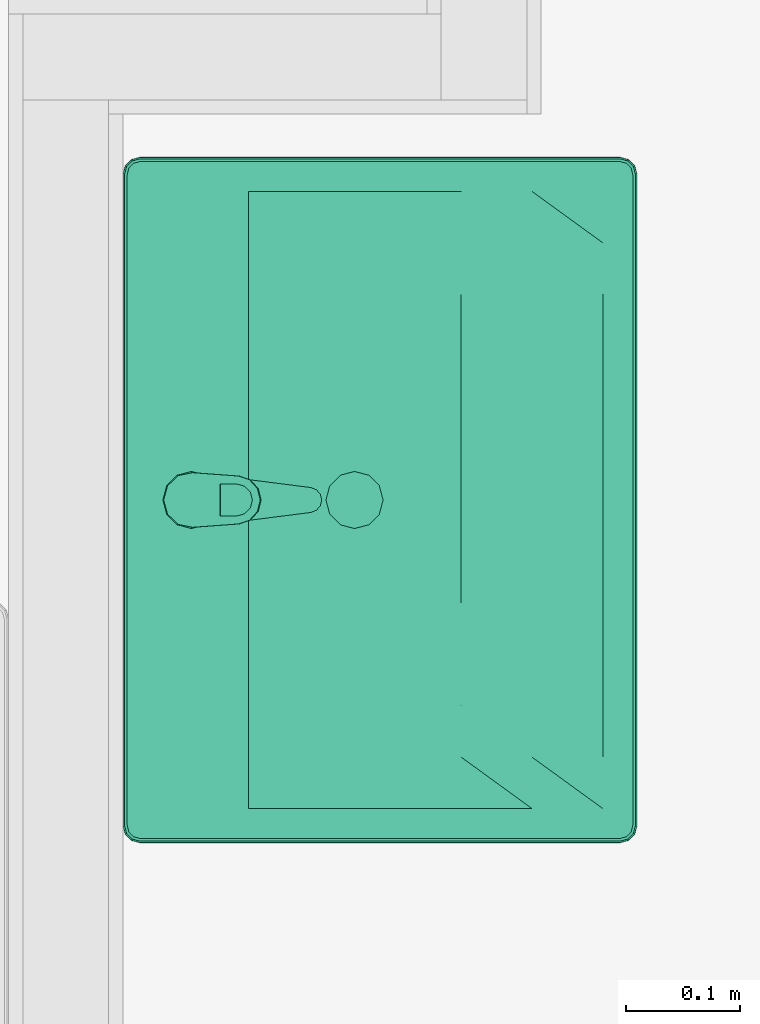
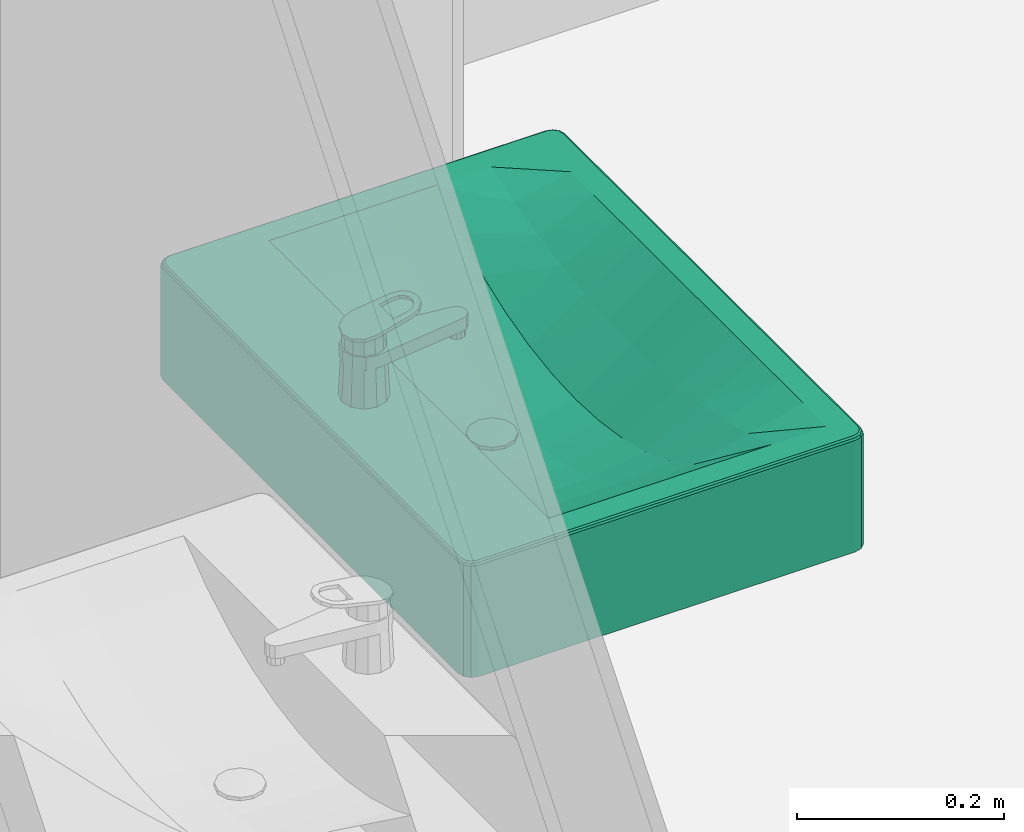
# One storey, part 117 of 135: 1 flow controller.
"""IFC2X3 building model written with IfcOpenShell, lengths in millimetres."""

from ifc_helpers import new_model, entity, si_unit, converted_unit, derived_unit, money_unit, direction, frame, origin_with_axes, place, context, subcontext, project, spatial, open_shell, faceted_brep, surface_model, source, transform, mapped, type_object, type_shapes, element, save


model = new_model("IFC2X3")

# Units and contexts
model_context = context("Model", 3, precision=0.01, world=origin_with_axes(), true_north=direction((0.0, 1.0)))
body_context = subcontext(model_context, "Body", "Model", "MODEL_VIEW")
ifc_project = project(units=[si_unit("LENGTHUNIT", "METRE", prefix="MILLI"), si_unit("AREAUNIT", "SQUARE_METRE"), si_unit("VOLUMEUNIT", "CUBIC_METRE"), converted_unit("PLANEANGLEUNIT", "DEGREE", entity("IfcPlaneAngleMeasure", 0.0174532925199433), si_unit("PLANEANGLEUNIT", "RADIAN"), dimensions=[0, 0, 0, 0, 0, 0, 0]), money_unit("EUR"), converted_unit("TIMEUNIT", "Year", entity("IfcTimeMeasure", 31557600.0), si_unit("TIMEUNIT", "SECOND"), dimensions=[0, 0, 1, 0, 0, 0, 0]), si_unit("MASSUNIT", "GRAM", prefix="KILO"), si_unit("THERMODYNAMICTEMPERATUREUNIT", "DEGREE_CELSIUS"), si_unit("LUMINOUSINTENSITYUNIT", "LUMEN"), si_unit("ENERGYUNIT", "JOULE", prefix="MEGA"), derived_unit("THERMALCONDUCTANCEUNIT", [(si_unit("POWERUNIT", "WATT"), 1), (si_unit("LENGTHUNIT", "METRE"), -1), (si_unit("THERMODYNAMICTEMPERATUREUNIT", "KELVIN"), -1)]), derived_unit("SPECIFICHEATCAPACITYUNIT", [(si_unit("ENERGYUNIT", "JOULE"), 1), (si_unit("MASSUNIT", "GRAM", prefix="KILO"), -1), (si_unit("THERMODYNAMICTEMPERATUREUNIT", "KELVIN"), -1)]), derived_unit("MASSDENSITYUNIT", [(si_unit("MASSUNIT", "GRAM", prefix="KILO"), 1), (si_unit("VOLUMEUNIT", "CUBIC_METRE"), -1)])], contexts=[model_context])

# Site, building, storey
site_placement = place(None, origin_with_axes())
site = spatial("IfcSite", under=ifc_project, at=site_placement, Name="Site", CompositionType="ELEMENT")
building_placement = place(site_placement, origin_with_axes())
building = spatial("IfcBuilding", under=site, at=building_placement, Name="Naam gebouw", CompositionType="ELEMENT")
storey_placement = place(building_placement, origin_with_axes())
storey = spatial("IfcBuildingStorey", under=building, at=storey_placement, Name="Begane grond N", CompositionType="ELEMENT", Elevation=0.0)

# Flow controller
valve_type = type_object("IfcValveType", Name="Wasbak 27", PredefinedType="NOTDEFINED")
shared_shape = source(origin_with_axes(), body_context, "Body", "SurfaceModel", [
    faceted_brep([(285.0, -450.0, 865.0), (-285.0, -450.0, 865.0), (-292.5, -447.9903810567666, 865.0), (-297.9903810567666, -442.5, 865.0), (-300.0, -435.0, 865.0), (-300.0, -15.00000000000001, 865.0), (-297.9903810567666, -7.500000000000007, 865.0), (-292.5, -2.009618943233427, 865.0), (-285.0, 0.0, 865.0), (285.0, 0.0, 865.0), (292.5, -2.009618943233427, 865.0), (297.9903810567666, -7.500000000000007, 865.0), (300.0, -15.00000000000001, 865.0), (300.0, -435.0, 865.0), (297.9903810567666, -442.5, 865.0), (292.5, -447.9903810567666, 865.0), (-270.0, -420.0000000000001, 865.0), (270.0, -420.0000000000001, 865.0), (270.0, -110.0, 865.0), (-270.0, -110.0, 865.0), (284.9999995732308, -450.0000003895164, 995.0), (-284.9999997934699, -450.0000003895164, 995.0), (-292.5000000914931, -447.9903813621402, 995.0), (-297.9903813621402, -442.5000000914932, 995.0), (-300.0000003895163, -434.99999979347, 995.0), (-300.0000003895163, -14.99999986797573, 995.0), (-297.9903813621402, -7.499999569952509, 995.0), (-292.5000000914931, -2.009619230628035, 995.0), (-284.9999997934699, -2.032518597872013e-07, 995.0), (284.9999995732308, -2.032518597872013e-07, 995.0), (292.499999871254, -2.009619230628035, 995.0), (297.990381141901, -7.499999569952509, 995.0), (300.0000001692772, -14.99999986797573, 995.0), (300.0000001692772, -434.99999979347, 995.0), (297.990381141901, -442.5000000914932, 995.0), (292.499999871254, -447.9903813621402, 995.0), (-270.0, -420.0000000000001, 999.9999996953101), (270.0, -420.0000000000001, 999.9999996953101), (270.0, -110.0, 999.9999996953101), (-270.0, -110.0, 999.9999996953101), (284.9775698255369, -449.8296295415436, 996.2940952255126), (-284.9775700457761, -449.8296295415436, 996.2940952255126), (-292.4118096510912, -447.8376310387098, 996.2940952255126), (-297.8376310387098, -442.4118096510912, 996.2940952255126), (-299.8296295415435, -434.9775700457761, 996.2940952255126), (-299.8296295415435, -15.02242961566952, 996.2940952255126), (-297.8376310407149, -7.588190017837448, 996.2940952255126), (-292.4118096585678, -2.16236955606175, 996.2940952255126), (-284.9775700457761, -0.1703710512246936, 996.2940952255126), (284.9775698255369, -0.1703710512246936, 996.2940952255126), (292.4118094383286, -2.16236955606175, 996.2940952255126), (297.8376308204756, -7.588190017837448, 996.2940952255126), (299.8296293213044, -15.02242961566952, 996.2940952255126), (299.8296293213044, -434.9775700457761, 996.2940952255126), (297.8376308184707, -442.4118096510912, 996.2940952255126), (292.411809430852, -447.8376310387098, 996.2940952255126), (-284.3417376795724, -4.999997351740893, 999.9999996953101), (-289.911811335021, -6.492494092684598, 999.9999996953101), (-293.5075066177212, -10.08818876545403, 999.9999996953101), (-295.0000032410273, -15.6582619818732, 999.9999996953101), (-295.0000032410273, -434.3417376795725, 999.9999996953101), (-293.5075065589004, -439.9118111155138, 999.9999996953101), (-289.9118111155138, -443.5075065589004, 999.9999996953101), (-284.3417376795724, -445.0000032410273, 999.9999996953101), (284.3417374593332, -445.0000032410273, 999.9999996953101), (289.9118108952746, -443.5075065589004, 999.9999996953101), (293.5075063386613, -439.9118111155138, 999.9999996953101), (295.0000030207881, -434.3417376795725, 999.9999996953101), (295.0000030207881, -15.6582619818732, 999.9999996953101), (293.507506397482, -10.08818876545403, 999.9999996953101), (289.9118111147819, -6.492494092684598, 999.9999996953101), (284.3417374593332, -4.999997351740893, 999.9999996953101), (284.8071989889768, -448.5355345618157, 998.5355339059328), (-284.8071992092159, -448.5355345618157, 998.5355339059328), (-291.7419367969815, -446.6773772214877, 998.5355339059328), (-296.6773772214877, -441.7419367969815, 998.5355339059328), (-298.5355345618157, -434.807199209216, 998.5355339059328), (-298.5355345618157, -15.1928004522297, 998.5355339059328), (-296.6773772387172, -8.258062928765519, 998.5355339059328), (-291.7419368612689, -3.322623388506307, 998.5355339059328), (-284.8071992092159, -1.464466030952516, 998.5355339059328), (284.8071989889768, -1.464466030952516, 998.5355339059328), (291.7419366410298, -3.322623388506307, 998.5355339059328), (296.677377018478, -8.258062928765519, 998.5355339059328), (298.5355343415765, -15.1928004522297, 998.5355339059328), (298.5355343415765, -434.807199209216, 998.5355339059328), (296.6773770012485, -441.7419367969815, 998.5355339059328), (291.7419365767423, -446.6773772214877, 998.5355339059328), (-290.5816830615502, -5.332242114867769, 999.8296291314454), (-284.5121082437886, -3.705904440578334, 999.8296291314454), (-294.6677585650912, -9.418316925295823, 999.8296291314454), (-296.2940961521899, -15.487891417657, 999.8296291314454), (-296.2940961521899, -434.5121082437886, 999.8296291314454), (-294.6677585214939, -440.5816828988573, 999.8296291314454), (-290.5816828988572, -444.6677585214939, 999.8296291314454), (-284.5121082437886, -446.2940961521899, 999.8296291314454), (284.5121080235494, -446.2940961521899, 999.8296291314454), (290.5816826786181, -444.6677585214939, 999.8296291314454), (294.6677583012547, -440.5816828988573, 999.8296291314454), (296.2940959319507, -434.5121082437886, 999.8296291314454), (296.2940959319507, -15.487891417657, 999.8296291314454), (294.667758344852, -9.418316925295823, 999.8296291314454), (290.581682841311, -5.332242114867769, 999.8296291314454), (284.5121080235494, -3.705904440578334, 999.8296291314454)], [[[0, 1, 2, 3, 4, 5, 6, 7, 8, 9, 10, 11, 12, 13, 14, 15], [16, 17, 18, 19]], [[0, 20, 21, 1]], [[1, 21, 22, 2]], [[2, 22, 23, 3]], [[3, 23, 24, 4]], [[4, 24, 25, 5]], [[5, 25, 26, 6]], [[6, 26, 27, 7]], [[7, 27, 28, 8]], [[8, 28, 29, 9]], [[9, 29, 30, 10]], [[10, 30, 31, 11]], [[11, 31, 32, 12]], [[12, 32, 33, 13]], [[13, 33, 34, 14]], [[14, 34, 35, 15]], [[15, 35, 20, 0]], [[36, 37, 17, 16]], [[37, 38, 18, 17]], [[38, 39, 19, 18]], [[39, 36, 16, 19]], [[20, 40, 41, 21]], [[21, 41, 42, 22]], [[22, 42, 43, 23]], [[23, 43, 44, 24]], [[24, 44, 45, 25]], [[25, 45, 46, 26]], [[26, 46, 47, 27]], [[27, 47, 48, 28]], [[28, 48, 49, 29]], [[29, 49, 50, 30]], [[30, 50, 51, 31]], [[31, 51, 52, 32]], [[32, 52, 53, 33]], [[33, 53, 54, 34]], [[34, 54, 55, 35]], [[35, 55, 40, 20]], [[56, 57, 58, 59, 60, 61, 62, 63, 64, 65, 66, 67, 68, 69, 70, 71], [36, 39, 38, 37]], [[40, 72, 73, 41]], [[41, 73, 74, 42]], [[42, 74, 75, 43]], [[43, 75, 76, 44]], [[44, 76, 77, 45]], [[45, 77, 78, 46]], [[46, 78, 79, 47]], [[47, 79, 80, 48]], [[48, 80, 81, 49]], [[49, 81, 82, 50]], [[50, 82, 83, 51]], [[51, 83, 84, 52]], [[52, 84, 85, 53]], [[53, 85, 86, 54]], [[54, 86, 87, 55]], [[55, 87, 72, 40]], [[88, 57, 56, 89]], [[90, 58, 57, 88]], [[91, 59, 58, 90]], [[92, 60, 59, 91]], [[93, 61, 60, 92]], [[94, 62, 61, 93]], [[95, 63, 62, 94]], [[96, 64, 63, 95]], [[97, 65, 64, 96]], [[98, 66, 65, 97]], [[99, 67, 66, 98]], [[100, 68, 67, 99]], [[101, 69, 68, 100]], [[102, 70, 69, 101]], [[103, 71, 70, 102]], [[89, 56, 71, 103]], [[72, 96, 95, 73]], [[73, 95, 94, 74]], [[74, 94, 93, 75]], [[75, 93, 92, 76]], [[76, 92, 91, 77]], [[77, 91, 90, 78]], [[78, 90, 88, 79]], [[79, 88, 89, 80]], [[80, 89, 103, 81]], [[81, 103, 102, 82]], [[82, 102, 101, 83]], [[83, 101, 100, 84]], [[84, 100, 99, 85]], [[85, 99, 98, 86]], [[86, 98, 97, 87]], [[87, 97, 96, 72]]]),
    faceted_brep([(-270.0, -420.0000000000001, 865.0), (-270.0, -110.0, 865.0), (270.0, -110.0, 865.0), (270.0, -420.0000000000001, 865.0), (12.49999999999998, -224.368635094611, 865.0), (21.65063509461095, -215.218, 865.0), (25.0, -202.718, 865.0), (21.65063509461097, -190.218, 865.0), (12.50000000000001, -181.067364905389, 865.0), (0.0, -177.718, 865.0), (-12.49999999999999, -181.067364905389, 865.0), (-21.65063509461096, -190.218, 865.0), (-25.0, -202.718, 865.0), (-21.65063509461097, -215.218, 865.0), (-12.50000000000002, -224.368635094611, 865.0), (0.0, -227.718, 865.0), (-270.0, -296.0000000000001, 1000.0), (-270.0, -234.0, 1000.0), (-270.0, -172.0, 1000.0), (-270.0, -110.0, 1000.0), (-270.0, -420.0000000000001, 1000.0), (-270.0, -358.0000000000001, 1000.0), (135.0, -110.0, 922.6004593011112), (180.0000000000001, -110.0, 941.1231796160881), (225.0, -110.0, 966.3832810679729), (270.0, -110.0, 1000.0), (-225.0, -110.0, 966.3832810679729), (-180.0, -110.0, 941.1231796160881), (-135.0, -110.0, 922.6004593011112), (-90.0, -110.0, 909.8887668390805), (-44.99999999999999, -110.0, 902.449942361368), (0.0, -110.0, 900.0), (45.00000000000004, -110.0, 902.449942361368), (90.00000000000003, -110.0, 909.8887668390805), (270.0, -234.0, 1000.0), (270.0, -296.0000000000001, 999.9999999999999), (270.0, -358.0000000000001, 1000.0), (270.0, -420.0000000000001, 1000.0), (270.0, -172.0, 1000.0), (-135.0, -420.0000000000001, 1000.0), (-180.0, -420.0000000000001, 1000.0), (-225.0, -420.0000000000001, 1000.0), (225.0, -420.0000000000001, 1000.0), (180.0000000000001, -420.0000000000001, 1000.0), (135.0, -420.0000000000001, 1000.0), (90.00000000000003, -420.0000000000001, 1000.0), (45.00000000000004, -420.0000000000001, 1000.0), (0.0, -420.0000000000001, 1000.0), (-44.99999999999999, -420.0000000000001, 1000.0), (-90.0, -420.0000000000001, 1000.0), (12.49999999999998, -224.368635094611, 900.6805395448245), (21.65063509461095, -215.218, 901.1787290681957), (25.0, -202.718, 901.3610790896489), (21.65063509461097, -190.218, 901.1787290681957), (12.50000000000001, -181.067364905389, 900.6805395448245), (0.0, -177.718, 900.0), (-12.49999999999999, -181.067364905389, 900.6805395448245), (-21.65063509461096, -190.218, 901.1787290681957), (-25.0, -202.718, 901.3610790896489), (-21.65063509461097, -215.218, 901.1787290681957), (-12.50000000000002, -224.368635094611, 900.6805395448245), (0.0, -227.718, 900.0), (-225.0, -234.0, 966.3832810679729), (-225.0, -172.0, 966.3832810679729), (-225.0, -358.0000000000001, 985.9168845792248), (-225.0, -296.0000000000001, 970.8433791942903), (180.0000000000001, -172.0, 941.1231796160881), (135.0, -172.0, 922.6004593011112), (225.0, -172.0, 966.3832810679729), (-180.0, -172.0, 941.1231796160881), (-135.0, -172.0, 922.6004593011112), (-90.0, -172.0, 909.8887668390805), (-44.99999999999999, -172.0, 902.449942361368), (0.0, -172.0, 900.0), (45.00000000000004, -172.0, 902.449942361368), (90.00000000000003, -172.0, 909.8887668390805), (225.0, -296.0000000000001, 970.8433791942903), (225.0, -358.0000000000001, 985.9168845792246), (225.0, -234.0, 966.3832810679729), (-135.0, -358.0000000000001, 965.8650987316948), (-180.0, -358.0000000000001, 974.5766150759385), (180.0000000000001, -358.0000000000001, 974.5766150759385), (135.0, -358.0000000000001, 965.8650987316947), (90.00000000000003, -358.0000000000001, 959.6989661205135), (45.00000000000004, -358.0000000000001, 956.0213334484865), (0.0, -358.0000000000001, 954.7990813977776), (-44.99999999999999, -358.0000000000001, 956.0213334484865), (-90.0, -358.0000000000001, 959.6989661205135), (0.0, -234.0, 900.0), (45.00000000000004, -234.0, 902.449942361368), (-44.99999999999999, -234.0, 902.449942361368), (-180.0, -234.0, 941.1231796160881), (180.0000000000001, -234.0, 941.1231796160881), (135.0, -234.0, 922.6004593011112), (-135.0, -234.0, 922.6004593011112), (-90.0, -234.0, 909.8887668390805), (90.00000000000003, -234.0, 909.8887668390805), (0.0, -296.0000000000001, 911.4604006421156), (-44.99999999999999, -296.0000000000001, 913.6864730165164), (-180.0, -296.0000000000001, 948.4946543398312), (135.0, -296.0000000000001, 931.904485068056), (180.0000000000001, -296.0000000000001, 948.4946543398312), (-135.0, -296.0000000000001, 931.904485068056), (-90.0, -296.0000000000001, 920.4312036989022), (45.00000000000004, -296.0000000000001, 913.6864730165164), (90.00000000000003, -296.0000000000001, 920.4312036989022)], [[[0, 1, 2, 3], [4, 5, 6, 7, 8, 9, 10, 11, 12, 13, 14, 15]], [[16, 17, 18, 19, 1, 0, 20, 21]], [[22, 23, 24, 25, 2, 1, 19, 26, 27, 28, 29, 30, 31, 32, 33]], [[34, 35, 36, 37, 3, 2, 25, 38]], [[39, 40, 41, 20, 0, 3, 37, 42, 43, 44, 45, 46, 47, 48, 49]], [[50, 51, 5, 4]], [[51, 52, 6, 5]], [[52, 53, 7, 6]], [[53, 54, 8, 7]], [[54, 55, 9, 8]], [[55, 56, 10, 9]], [[56, 57, 11, 10]], [[57, 58, 12, 11]], [[58, 59, 13, 12]], [[59, 60, 14, 13]], [[60, 61, 15, 14]], [[61, 50, 4, 15]], [[16, 62, 17]], [[62, 63, 18, 17]], [[63, 26, 19, 18]], [[20, 64, 21]], [[21, 65, 16]], [[66, 23, 22, 67]], [[68, 24, 23, 66]], [[38, 25, 24, 68]], [[69, 27, 26, 63]], [[70, 28, 27, 69]], [[71, 29, 28, 70]], [[72, 30, 29, 71]], [[73, 31, 30, 72]], [[74, 32, 31, 73]], [[75, 33, 32, 74]], [[67, 22, 33, 75]], [[76, 35, 34]], [[77, 36, 35]], [[42, 37, 36]], [[34, 38, 68, 78]], [[40, 39, 79]], [[41, 40, 80]], [[20, 41, 64]], [[43, 42, 77]], [[44, 43, 81]], [[45, 44, 82]], [[46, 45, 83]], [[47, 46, 84]], [[48, 47, 85]], [[49, 48, 86]], [[39, 49, 87]], [[54, 53, 52, 51, 50, 61, 88, 89, 74, 73, 55]], [[56, 55, 73, 72, 90, 88, 61, 60, 59, 58, 57]], [[16, 65, 62]], [[91, 69, 63, 62]], [[21, 64, 65]], [[92, 66, 67, 93]], [[78, 68, 66, 92]], [[94, 70, 69, 91]], [[95, 71, 70, 94]], [[90, 72, 71, 95]], [[96, 75, 74, 89]], [[93, 67, 75, 96]], [[77, 35, 76]], [[76, 34, 78]], [[42, 36, 77]], [[39, 87, 79]], [[40, 79, 80]], [[41, 80, 64]], [[43, 77, 81]], [[44, 81, 82]], [[45, 82, 83]], [[46, 83, 84]], [[47, 84, 85]], [[48, 85, 86]], [[49, 86, 87]], [[97, 89, 88]], [[98, 88, 90]], [[65, 91, 62]], [[64, 99, 65]], [[100, 92, 93]], [[101, 78, 92]], [[99, 94, 91]], [[102, 95, 94]], [[103, 90, 95]], [[104, 96, 89]], [[105, 93, 96]], [[81, 77, 76]], [[101, 76, 78]], [[79, 87, 103]], [[80, 79, 102]], [[64, 80, 99]], [[82, 81, 101]], [[83, 82, 100]], [[84, 83, 105]], [[85, 84, 104]], [[86, 85, 97]], [[87, 86, 98]], [[97, 104, 89]], [[98, 97, 88]], [[103, 98, 90]], [[65, 99, 91]], [[100, 101, 92]], [[105, 100, 93]], [[99, 102, 94]], [[102, 103, 95]], [[104, 105, 96]], [[81, 76, 101]], [[87, 98, 103]], [[79, 103, 102]], [[80, 102, 99]], [[82, 101, 100]], [[83, 100, 105]], [[84, 105, 104]], [[85, 104, 97]], [[86, 97, 98]]]),
    faceted_brep([(21.65063509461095, -215.218, 900.0), (12.49999999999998, -224.368635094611, 900.0), (0.0, -227.718, 900.0), (-12.50000000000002, -224.368635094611, 900.0), (-21.65063509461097, -215.218, 900.0), (-25.0, -202.718, 900.0), (-21.65063509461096, -190.218, 900.0), (-12.49999999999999, -181.067364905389, 900.0), (0.0, -177.718, 900.0), (12.50000000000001, -181.067364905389, 900.0), (21.65063509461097, -190.218, 900.0), (25.0, -202.718, 900.0), (21.65063509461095, -215.218, 905.0), (12.49999999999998, -224.368635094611, 905.0), (0.0, -227.718, 905.0), (-12.50000000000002, -224.368635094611, 905.0), (-21.65063509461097, -215.218, 905.0), (-25.0, -202.718, 905.0), (-21.65063509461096, -190.218, 905.0), (-12.49999999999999, -181.067364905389, 905.0), (0.0, -177.718, 905.0), (12.50000000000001, -181.067364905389, 905.0), (21.65063509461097, -190.218, 905.0), (25.0, -202.718, 905.0)], [[[0, 1, 2, 3, 4, 5, 6, 7, 8, 9, 10, 11]], [[1, 0, 12, 13]], [[2, 1, 13, 14]], [[3, 2, 14, 15]], [[4, 3, 15, 16]], [[5, 4, 16, 17]], [[6, 5, 17, 18]], [[7, 6, 18, 19]], [[8, 7, 19, 20]], [[9, 8, 20, 21]], [[10, 9, 21, 22]], [[11, 10, 22, 23]], [[0, 11, 23, 12]], [[12, 23, 22, 21, 20, 19, 18, 17, 16, 15, 14, 13]]]),
    surface_model("IfcShellBasedSurfaceModel", [(0.0, -202.718, 907.0), (0.0, -190.09609443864, 906.4975737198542), (-6.310952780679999, -191.7871091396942, 906.4975737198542), (6.310952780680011, -191.7871091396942, 906.4975737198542), (0.0, -177.718, 905.0), (-12.5, -181.067364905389, 905.0), (-10.93089086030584, -196.40704721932, 906.4975737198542), (10.93089086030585, -196.40704721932, 906.4975737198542), (12.50000000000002, -181.067364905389, 905.0), (-21.65063509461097, -190.218, 905.0), (-12.62190556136, -202.718, 906.4975737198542), (12.62190556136, -202.718, 906.4975737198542), (21.65063509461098, -190.218, 905.0), (-25.0, -202.718, 905.0), (-10.93089086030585, -209.02895278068, 906.4975737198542), (10.93089086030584, -209.02895278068, 906.4975737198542), (25.0, -202.718, 905.0), (-21.65063509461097, -215.218, 905.0), (-6.310952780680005, -213.6488908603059, 906.4975737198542), (6.310952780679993, -213.6488908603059, 906.4975737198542), (21.65063509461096, -215.218, 905.0), (-12.50000000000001, -224.368635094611, 905.0), (0.0, -215.33990556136, 906.4975737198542), (12.49999999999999, -224.368635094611, 905.0), (0.0, -227.718, 905.0)], [open_shell([[[0, 1, 2]], [[0, 3, 1]], [[2, 1, 4, 5]], [[0, 2, 6]], [[0, 7, 3]], [[1, 3, 8, 4]], [[6, 2, 5, 9]], [[0, 6, 10]], [[0, 11, 7]], [[3, 7, 12, 8]], [[10, 6, 9, 13]], [[0, 10, 14]], [[0, 15, 11]], [[7, 11, 16, 12]], [[14, 10, 13, 17]], [[0, 14, 18]], [[0, 19, 15]], [[11, 15, 20, 16]], [[18, 14, 17, 21]], [[0, 18, 22]], [[0, 22, 19]], [[15, 19, 23, 20]], [[22, 18, 21, 24]], [[19, 22, 24, 23]]])]),
    faceted_brep([(12.50000000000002, -38.34936490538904, 1000.0), (0.0, -34.99999999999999, 1000.0), (0.0, -38.79807692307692, 1075.961538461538), (10.587322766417, -41.66221905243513, 1076.507089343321), (21.65063509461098, -47.50000000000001, 1000.0), (25.0, -60.00000000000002, 1000.0), (21.65063509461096, -72.50000000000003, 1000.0), (12.49999999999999, -81.65063509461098, 1000.0), (0.0, -84.99999999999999, 1000.0), (-12.50000000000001, -81.65063509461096, 1000.0), (-21.65063509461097, -72.5, 1000.0), (-25.0, -59.99999999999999, 1000.0), (-21.65063509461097, -47.49999999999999, 1000.0), (-12.5, -38.34936490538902, 1000.0), (-10.58732276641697, -41.66221905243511, 1076.507089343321), (-18.27355038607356, -49.44976076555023, 1077.99043062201), (-21.0, -59.99999999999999, 1080.0), (-18.10034137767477, -70.45023696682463, 1081.990521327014), (-10.41410590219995, -78.0377605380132, 1083.435763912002), (0.0, -80.80188679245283, 1083.962264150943), (10.41410590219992, -78.03776053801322, 1083.435763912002), (18.10034137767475, -70.45023696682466, 1081.990521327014), (21.0, -60.00000000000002, 1080.0), (18.27355038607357, -49.44976076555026, 1077.99043062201)], [[[0, 1, 2, 3]], [[0, 4, 5, 6, 7, 8, 9, 10, 11, 12, 13, 1]], [[1, 13, 14, 2]], [[3, 2, 14, 15, 16, 17, 18, 19, 20, 21, 22, 23]], [[4, 0, 3, 23]], [[5, 4, 23, 22]], [[6, 5, 22, 21]], [[7, 6, 21, 20]], [[8, 7, 20, 19]], [[9, 8, 19, 18]], [[10, 9, 18, 17]], [[11, 10, 17, 16]], [[12, 11, 16, 15]], [[13, 12, 15, 14]]]),
    faceted_brep([(9.000000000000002, -163.0, 1035.0), (7.794228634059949, -158.5, 1035.0), (7.794228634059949, -158.5, 1045.0), (9.000000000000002, -163.0, 1045.0), (7.794228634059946, -167.5, 1035.0), (4.499999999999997, -170.79422863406, 1035.0), (0.0, -172.0, 1035.0), (-4.500000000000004, -170.79422863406, 1035.0), (-7.794228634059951, -167.5, 1035.0), (-9.000000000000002, -163.0, 1035.0), (-7.794228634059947, -158.5, 1035.0), (-4.499999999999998, -155.2057713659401, 1035.0), (0.0, -154.0, 1035.0), (4.500000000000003, -155.2057713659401, 1035.0), (4.500000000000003, -155.2057713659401, 1045.0), (0.0, -154.0, 1045.0), (-4.499999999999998, -155.2057713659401, 1045.0), (-7.794228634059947, -158.5, 1045.0), (-9.000000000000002, -163.0, 1045.0), (-7.794228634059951, -167.5, 1045.0), (-4.500000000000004, -170.79422863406, 1045.0), (0.0, -172.0, 1045.0), (4.499999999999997, -170.79422863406, 1045.0), (7.794228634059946, -167.5, 1045.0)], [[[0, 1, 2, 3]], [[0, 4, 5, 6, 7, 8, 9, 10, 11, 12, 13, 1]], [[1, 13, 14, 2]], [[3, 2, 14, 15, 16, 17, 18, 19, 20, 21, 22, 23]], [[4, 0, 3, 23]], [[5, 4, 23, 22]], [[6, 5, 22, 21]], [[7, 6, 21, 20]], [[8, 7, 20, 19]], [[9, 8, 19, 18]], [[10, 9, 18, 17]], [[11, 10, 17, 16]], [[12, 11, 16, 15]], [[13, 12, 15, 14]]]),
    faceted_brep([(-12.87171762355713, -39.74369617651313, 1060.0), (-21.72780530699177, -49.80679463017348, 1060.0), (-23.8054, -63.04989999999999, 1060.0), (-10.9119908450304, -164.3883719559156, 1060.0), (-9.02887546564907, -169.2831941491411, 1060.0), (-5.093324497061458, -172.7497264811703, 1060.0), (3.626798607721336e-05, -173.9999600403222, 1060.0), (5.093388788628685, -172.7496928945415, 1060.0), (9.02891689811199, -169.2831346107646, 1060.0), (10.912, -164.3883, 1060.0), (23.80539974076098, -63.04990202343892, 1060.0), (21.72780617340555, -49.80679647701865, 1060.0), (12.87171934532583, -39.74369727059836, 1060.0), (1.019988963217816e-06, -36.00002168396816, 1060.0), (11.00000000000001, -40.94744111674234, 1060.0), (19.05255888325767, -48.99999999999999, 1060.0), (22.00000000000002, -60.0, 1060.0), (19.05255888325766, -71.00000000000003, 1060.0), (10.99999999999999, -79.05255888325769, 1060.0), (0.0, -82.0, 1060.0), (-11.00000000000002, -79.05255888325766, 1060.0), (-19.05255888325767, -70.99999999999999, 1060.0), (-22.00000000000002, -59.99999999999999, 1060.0), (-19.05255888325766, -48.99999999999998, 1060.0), (-11.0, -40.94744111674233, 1060.0), (0.0, -37.99999999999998, 1060.0), (-21.72780530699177, -49.80679463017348, 1045.0), (-12.87171762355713, -39.74369617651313, 1045.0), (-23.8054, -63.04989999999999, 1045.0), (-10.9119908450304, -164.3883719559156, 1045.0), (-9.02887546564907, -169.2831941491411, 1045.0), (-5.093324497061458, -172.7497264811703, 1045.0), (3.626798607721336e-05, -173.9999600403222, 1045.0), (5.093388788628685, -172.7496928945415, 1045.0), (9.02891689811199, -169.2831346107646, 1045.0), (10.912, -164.3883, 1045.0), (23.80539974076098, -63.04990202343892, 1045.0), (21.72780617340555, -49.80679647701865, 1045.0), (12.87171934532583, -39.74369727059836, 1045.0), (1.019988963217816e-06, -36.00002168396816, 1045.0), (11.37500000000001, -40.297922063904, 1045.0), (19.70207793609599, -48.62499999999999, 1045.0), (22.75000000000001, -60.0, 1045.0), (19.70207793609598, -71.37500000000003, 1045.0), (11.37499999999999, -79.702077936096, 1045.0), (0.0, -82.75, 1045.0), (-11.37500000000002, -79.70207793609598, 1045.0), (-19.70207793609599, -71.375, 1045.0), (-22.75000000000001, -59.99999999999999, 1045.0), (-19.70207793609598, -48.62499999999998, 1045.0), (-11.375, -40.297922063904, 1045.0), (0.0, -37.24999999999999, 1045.0)], [[[0, 1, 2, 3, 4, 5, 6, 7, 8, 9, 10, 11, 12, 13], [14, 15, 16, 17, 18, 19, 20, 21, 22, 23, 24, 25]], [[26, 1, 0, 27]], [[28, 2, 1, 26]], [[29, 3, 2, 28]], [[30, 4, 3, 29]], [[31, 5, 4, 30]], [[32, 6, 5, 31]], [[33, 7, 6, 32]], [[34, 8, 7, 33]], [[35, 9, 8, 34]], [[36, 10, 9, 35]], [[37, 11, 10, 36]], [[38, 12, 11, 37]], [[39, 13, 12, 38]], [[27, 0, 13, 39]], [[40, 41, 15, 14]], [[41, 42, 16, 15]], [[42, 43, 17, 16]], [[43, 44, 18, 17]], [[44, 45, 19, 18]], [[20, 19, 45, 46]], [[21, 20, 46, 47]], [[22, 21, 47, 48]], [[23, 22, 48, 49]], [[24, 23, 49, 50]], [[50, 51, 25, 24]], [[51, 40, 14, 25]], [[32, 31, 30, 29, 28, 26, 27, 39, 38, 37, 36, 35, 34, 33], [44, 43, 42, 41, 40, 51, 50, 49, 48, 47, 46, 45]]]),
    faceted_brep([(23.893, -61.69256934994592, 1080.322394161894), (21.29642141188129, -49.22528119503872, 1077.947672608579), (21.29642141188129, -48.47683276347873, 1081.877026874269), (23.893, -60.94412091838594, 1084.251748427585), (20.94593649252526, -101.8367022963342, 1087.968895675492), (17.66313911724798, -111.514366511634, 1089.81226028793), (10.06143529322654, -118.4637460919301, 1091.135951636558), (-0.0004426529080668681, -120.9856119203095, 1091.61630703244), (-10.06221236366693, -118.4633294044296, 1091.13587226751), (-17.66361794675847, -111.5136350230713, 1089.812120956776), (-20.946, -101.8358348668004, 1087.968730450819), (-23.89302047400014, -61.69229042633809, 1080.322341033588), (-21.29629106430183, -49.22503258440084, 1077.947625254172), (-12.4716815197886, -39.90880255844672, 1076.173105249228), (0.0001423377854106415, -36.46803549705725, 1075.517721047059), (12.47192457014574, -39.90894815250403, 1076.173132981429), (14.0, -85.54080272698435, 1084.86491480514), (-14.0, -85.54080272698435, 1084.86491480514), (-14.0, -100.3564329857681, 1087.686939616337), (-12.12435565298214, -107.2328029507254, 1088.996724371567), (-7.000000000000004, -112.2666551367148, 1089.955553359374), (0.0, -114.1091729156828, 1090.306509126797), (6.999999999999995, -112.2666551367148, 1089.955553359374), (12.12435565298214, -107.2328029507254, 1088.996724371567), (14.0, -100.3564329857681, 1087.686939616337), (12.47192457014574, -39.16049972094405, 1080.102487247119), (0.0001423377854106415, -35.71958706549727, 1079.447075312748), (-12.4716815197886, -39.16035412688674, 1080.102459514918), (-21.29629106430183, -48.47658415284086, 1081.876979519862), (-23.89302047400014, -60.9438419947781, 1084.251695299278), (-20.946, -101.0873864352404, 1091.898084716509), (-17.66361794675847, -110.7651865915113, 1093.741475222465), (-10.06221236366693, -117.7148809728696, 1095.0652265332), (-0.0004426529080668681, -120.2371634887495, 1095.54566129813), (10.06143529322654, -117.7152976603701, 1095.065305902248), (17.66313911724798, -110.765918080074, 1093.74161455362), (20.94593649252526, -101.0882538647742, 1091.898249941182), (14.0, -84.79235429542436, 1088.79426907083), (14.0, -99.60798455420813, 1091.616293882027), (12.12435565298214, -106.4843545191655, 1092.926078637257), (6.999999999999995, -111.5182067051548, 1093.884907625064), (0.0, -113.3607244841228, 1094.235863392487), (-7.000000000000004, -111.5182067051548, 1093.884907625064), (-12.12435565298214, -106.4843545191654, 1092.926078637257), (-14.0, -99.60798455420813, 1091.616293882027), (-14.0, -84.79235429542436, 1088.79426907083)], [[[0, 1, 2, 3]], [[0, 4, 5, 6, 7, 8, 9, 10, 11, 12, 13, 14, 15, 1], [16, 17, 18, 19, 20, 21, 22, 23, 24]], [[1, 15, 25, 2]], [[3, 2, 25, 26, 27, 28, 29, 30, 31, 32, 33, 34, 35, 36], [37, 38, 39, 40, 41, 42, 43, 44, 45]], [[4, 0, 3, 36]], [[5, 4, 36, 35]], [[6, 5, 35, 34]], [[7, 6, 34, 33]], [[8, 7, 33, 32]], [[9, 8, 32, 31]], [[10, 9, 31, 30]], [[11, 10, 30, 29]], [[12, 11, 29, 28]], [[13, 12, 28, 27]], [[14, 13, 27, 26]], [[15, 14, 26, 25]], [[17, 16, 37, 45]], [[18, 17, 45, 44]], [[19, 18, 44, 43]], [[20, 19, 43, 42]], [[21, 20, 42, 41]], [[22, 21, 41, 40]], [[23, 22, 40, 39]], [[24, 23, 39, 38]], [[16, 24, 38, 37]]]),
])
type_shapes(valve_type, [shared_shape])
flow_controller_placement = place(storey_placement, frame((33483.11817762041, 16553.28682193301, -150.0), z_axis=(0.0, 0.0, 1.0), x_axis=(0.0, 1.0, 0.0)))
element("IfcFlowController", 1, at=flow_controller_placement, inside=storey, type_object=valve_type, Name="_Sanitair-x", ObjectType="Electric Distribution Board", context=body_context, shape_type="MappedRepresentation", body=[
    mapped(shared_shape, transform((0.0, 0.0, 0.0))),
])

save(model, "model.ifc")
